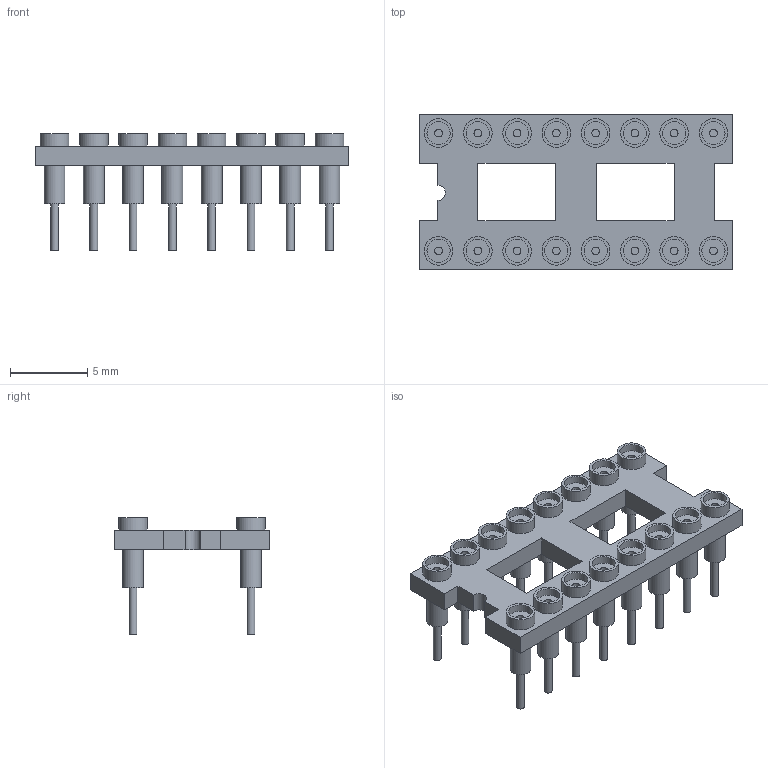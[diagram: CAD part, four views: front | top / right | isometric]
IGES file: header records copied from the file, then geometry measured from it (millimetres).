
Global section: file name: No Iges File Name specified; native system: AutoDesk Inventor R6.0; preprocessor: AutoDesk Inventor Iges Exporter R6.0; author: No Author specified; organization: No Organization specified; date: 20080103.180012; units: inch
Bounding box: 20.29 x 10.08 x 7.55 mm (x, y, z)
Surface area: 1036.5 mm2 (no closed solid volume)
Topology: 0 solids, 0 shells, 200 faces, 596 edges, 500 vertices
Faces by surface type: plane 87, bspline 64, revolution 49
